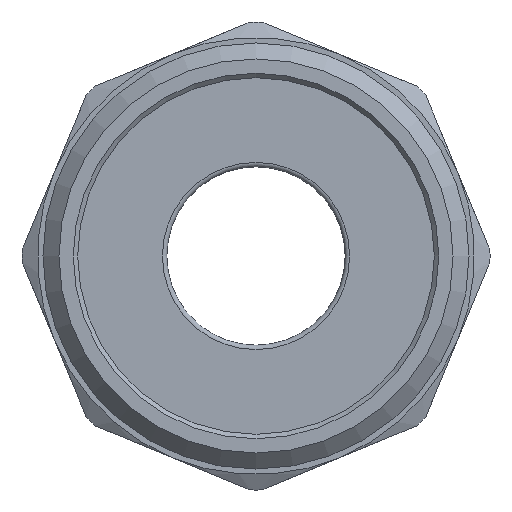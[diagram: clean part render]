
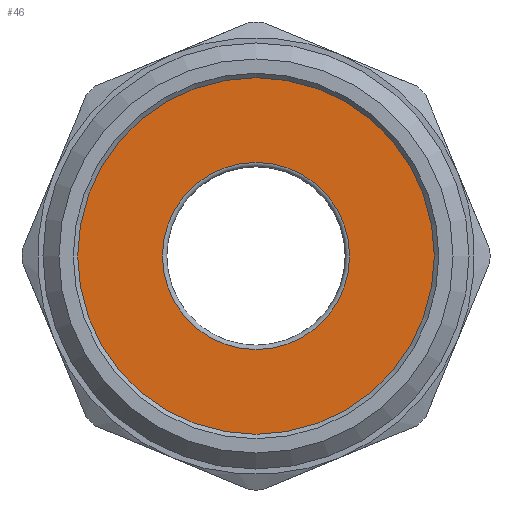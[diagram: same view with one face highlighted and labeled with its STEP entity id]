
A CAD part, front view. The second image highlights one B-rep face of the part: STEP entity #46.
In plain terms, the highlighted planar face has unit normal (0, -1, 0).
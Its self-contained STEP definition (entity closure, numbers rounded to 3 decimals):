
#46=ADVANCED_FACE('',(#104,#106),#108,.T.);
#104=FACE_BOUND('',#105,.T.);
#105=EDGE_LOOP('',(#412));
#106=FACE_BOUND('',#107,.T.);
#107=EDGE_LOOP('',(#413));
#108=PLANE('',#109);
#109=AXIS2_PLACEMENT_3D('',#110,#111,#112);
#110=CARTESIAN_POINT('',(0.,2.,0.));
#111=DIRECTION('',(0.,-1.,0.));
#112=DIRECTION('',(1.,0.,0.));
#412=ORIENTED_EDGE('',*,*,#582,.T.);
#413=ORIENTED_EDGE('',*,*,#583,.F.);
#582=EDGE_CURVE('',#671,#671,#672,.T.);
#583=EDGE_CURVE('',#673,#673,#674,.F.);
#671=VERTEX_POINT('',#825);
#672=CIRCLE('',#826,20.);
#673=VERTEX_POINT('',#830);
#674=CIRCLE('',#831,10.5);
#825=CARTESIAN_POINT('',(20.,2.,0.));
#826=AXIS2_PLACEMENT_3D('',#827,#828,#829);
#827=CARTESIAN_POINT('',(0.,2.,0.));
#828=DIRECTION('',(0.,-1.,0.));
#829=DIRECTION('',(1.,0.,0.));
#830=CARTESIAN_POINT('',(-10.5,2.,0.));
#831=AXIS2_PLACEMENT_3D('',#832,#833,#834);
#832=CARTESIAN_POINT('',(0.,2.,0.));
#833=DIRECTION('',(0.,1.,0.));
#834=DIRECTION('',(-1.,0.,0.));
